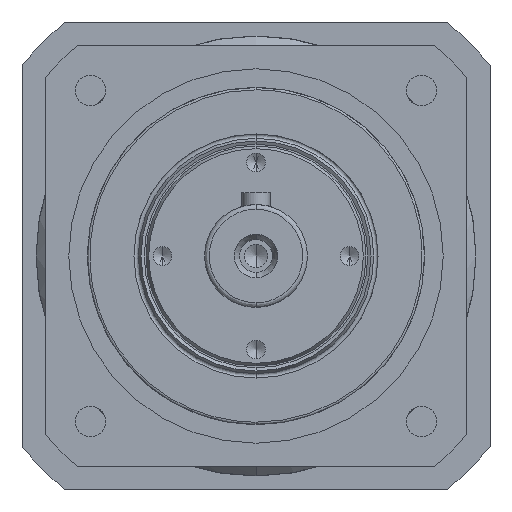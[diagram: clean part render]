
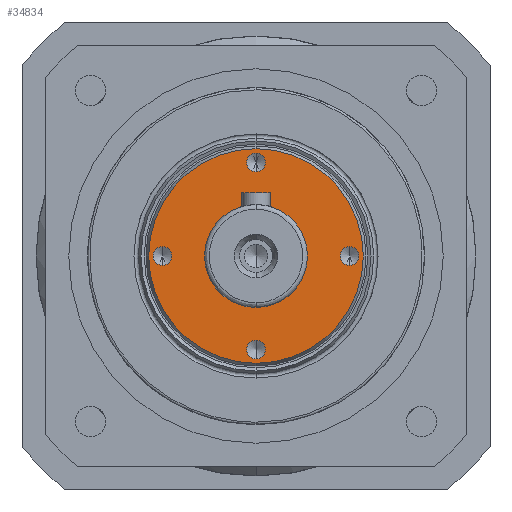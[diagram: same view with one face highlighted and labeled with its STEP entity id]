
A CAD part, left-side view. The second image highlights one B-rep face of the part: STEP entity #34834.
In plain terms, the highlighted planar face has unit normal (-1, 0, 0).
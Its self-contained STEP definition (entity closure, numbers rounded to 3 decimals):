
#48 = DIRECTION ( 'NONE',  ( 0., 0., 1. ) ) ;
#70 = AXIS2_PLACEMENT_3D ( 'NONE', #18521, #7627, #21269 ) ;
#148 = CARTESIAN_POINT ( 'NONE',  ( 39.5, -20., 2. ) ) ;
#640 = DIRECTION ( 'NONE',  ( -1., 0., 0. ) ) ;
#792 = DIRECTION ( 'NONE',  ( -1., 0., 0. ) ) ;
#819 = AXIS2_PLACEMENT_3D ( 'NONE', #3991, #22915, #6692 ) ;
#1209 = DIRECTION ( 'NONE',  ( -1., 0., 0. ) ) ;
#1785 = DIRECTION ( 'NONE',  ( 0., 0., 1. ) ) ;
#2115 = CARTESIAN_POINT ( 'NONE',  ( 39.5, 0., 22.923 ) ) ;
#2175 = EDGE_CURVE ( 'NONE', #29331, #9795, #23464, .T. ) ;
#2346 = EDGE_LOOP ( 'NONE', ( #7437, #2680 ) ) ;
#2680 = ORIENTED_EDGE ( 'NONE', *, *, #2175, .F. ) ;
#2889 = VERTEX_POINT ( 'NONE', #28258 ) ;
#3090 = AXIS2_PLACEMENT_3D ( 'NONE', #3813, #22751, #6522 ) ;
#3546 = VERTEX_POINT ( 'NONE', #11335 ) ;
#3647 = EDGE_LOOP ( 'NONE', ( #8875, #10051 ) ) ;
#3813 = CARTESIAN_POINT ( 'NONE',  ( 39.5, 0., 20. ) ) ;
#3934 = CIRCLE ( 'NONE', #19303, 22.923 ) ;
#3991 = CARTESIAN_POINT ( 'NONE',  ( 39.5, 0., -20. ) ) ;
#4042 = DIRECTION ( 'NONE',  ( -1., 0., 0. ) ) ;
#4164 = CIRCLE ( 'NONE', #819, 2. ) ;
#4484 = AXIS2_PLACEMENT_3D ( 'NONE', #32548, #16287, #48 ) ;
#4542 = AXIS2_PLACEMENT_3D ( 'NONE', #9350, #4042, #29285 ) ;
#4765 = CARTESIAN_POINT ( 'NONE',  ( 39.5, 0., 22. ) ) ;
#4771 = FACE_BOUND ( 'NONE', #22390, .T. ) ;
#4926 = ORIENTED_EDGE ( 'NONE', *, *, #26098, .F. ) ;
#5150 = ORIENTED_EDGE ( 'NONE', *, *, #16307, .F. ) ;
#5408 = CIRCLE ( 'NONE', #33703, 2. ) ;
#5780 = ORIENTED_EDGE ( 'NONE', *, *, #13956, .F. ) ;
#5847 = CARTESIAN_POINT ( 'NONE',  ( 39.5, 20., -2. ) ) ;
#6522 = DIRECTION ( 'NONE',  ( 0., 0., 1. ) ) ;
#6692 = DIRECTION ( 'NONE',  ( 0., 0., 1. ) ) ;
#7132 = CIRCLE ( 'NONE', #10244, 2. ) ;
#7437 = ORIENTED_EDGE ( 'NONE', *, *, #29196, .F. ) ;
#7627 = DIRECTION ( 'NONE',  ( 1., 0., 0. ) ) ;
#8409 = VERTEX_POINT ( 'NONE', #4765 ) ;
#8875 = ORIENTED_EDGE ( 'NONE', *, *, #33177, .F. ) ;
#9033 = DIRECTION ( 'NONE',  ( -1., 0., 0. ) ) ;
#9115 = CARTESIAN_POINT ( 'NONE',  ( 39.5, 0., 0. ) ) ;
#9350 = CARTESIAN_POINT ( 'NONE',  ( 39.5, -20., 0. ) ) ;
#9431 = EDGE_CURVE ( 'NONE', #3546, #8409, #21688, .T. ) ;
#9795 = VERTEX_POINT ( 'NONE', #148 ) ;
#10051 = ORIENTED_EDGE ( 'NONE', *, *, #26487, .F. ) ;
#10182 = VERTEX_POINT ( 'NONE', #2115 ) ;
#10244 = AXIS2_PLACEMENT_3D ( 'NONE', #34273, #18010, #1785 ) ;
#10485 = CARTESIAN_POINT ( 'NONE',  ( 39.5, 0., 0. ) ) ;
#10751 = CARTESIAN_POINT ( 'NONE',  ( 39.5, 0., 0. ) ) ;
#11335 = CARTESIAN_POINT ( 'NONE',  ( 39.5, 0., 18. ) ) ;
#11834 = DIRECTION ( 'NONE',  ( 0., 0., -1. ) ) ;
#11954 = ORIENTED_EDGE ( 'NONE', *, *, #13809, .F. ) ;
#11985 = CARTESIAN_POINT ( 'NONE',  ( 39.5, 0., -11. ) ) ;
#12168 = ORIENTED_EDGE ( 'NONE', *, *, #28611, .F. ) ;
#12788 = FACE_OUTER_BOUND ( 'NONE', #3647, .T. ) ;
#13236 = DIRECTION ( 'NONE',  ( 0., 0., -1. ) ) ;
#13487 = DIRECTION ( 'NONE',  ( 0., 0., 1. ) ) ;
#13809 = EDGE_CURVE ( 'NONE', #8409, #3546, #18210, .T. ) ;
#13956 = EDGE_CURVE ( 'NONE', #25348, #20768, #21683, .T. ) ;
#14713 = CARTESIAN_POINT ( 'NONE',  ( 39.5, 0., -22.923 ) ) ;
#15038 = EDGE_LOOP ( 'NONE', ( #28812, #12168 ) ) ;
#15415 = CARTESIAN_POINT ( 'NONE',  ( 39.5, -20., -2. ) ) ;
#15762 = AXIS2_PLACEMENT_3D ( 'NONE', #9115, #28094, #11834 ) ;
#15815 = PLANE ( 'NONE',  #70 ) ;
#16287 = DIRECTION ( 'NONE',  ( -1., 0., 0. ) ) ;
#16307 = EDGE_CURVE ( 'NONE', #33821, #25370, #25774, .T. ) ;
#16382 = EDGE_LOOP ( 'NONE', ( #31242, #5150 ) ) ;
#16453 = AXIS2_PLACEMENT_3D ( 'NONE', #10751, #29749, #13487 ) ;
#16855 = CARTESIAN_POINT ( 'NONE',  ( 39.5, 0., 0. ) ) ;
#17018 = CARTESIAN_POINT ( 'NONE',  ( 39.5, 20., 0. ) ) ;
#17192 = AXIS2_PLACEMENT_3D ( 'NONE', #16855, #640, #19575 ) ;
#17445 = CARTESIAN_POINT ( 'NONE',  ( 39.5, -20., 0. ) ) ;
#18010 = DIRECTION ( 'NONE',  ( -1., 0., 0. ) ) ;
#18210 = CIRCLE ( 'NONE', #4484, 2. ) ;
#18521 = CARTESIAN_POINT ( 'NONE',  ( 39.5, 0., -11. ) ) ;
#19157 = FACE_BOUND ( 'NONE', #2346, .T. ) ;
#19303 = AXIS2_PLACEMENT_3D ( 'NONE', #10485, #29505, #13236 ) ;
#19575 = DIRECTION ( 'NONE',  ( 0., 0., 1. ) ) ;
#19737 = DIRECTION ( 'NONE',  ( 0., 0., 1. ) ) ;
#20168 = DIRECTION ( 'NONE',  ( 0., 0., 1. ) ) ;
#20768 = VERTEX_POINT ( 'NONE', #11985 ) ;
#21111 = ORIENTED_EDGE ( 'NONE', *, *, #9431, .F. ) ;
#21269 = DIRECTION ( 'NONE',  ( 0., 0., -1. ) ) ;
#21683 = CIRCLE ( 'NONE', #17192, 11. ) ;
#21688 = CIRCLE ( 'NONE', #3090, 2. ) ;
#22390 = EDGE_LOOP ( 'NONE', ( #5780, #4926 ) ) ;
#22751 = DIRECTION ( 'NONE',  ( -1., 0., 0. ) ) ;
#22915 = DIRECTION ( 'NONE',  ( -1., 0., 0. ) ) ;
#23293 = EDGE_CURVE ( 'NONE', #26918, #2889, #7132, .T. ) ;
#23464 = CIRCLE ( 'NONE', #4542, 2. ) ;
#24032 = AXIS2_PLACEMENT_3D ( 'NONE', #25271, #9033, #28001 ) ;
#24724 = EDGE_CURVE ( 'NONE', #25370, #33821, #5408, .T. ) ;
#25271 = CARTESIAN_POINT ( 'NONE',  ( 39.5, 20., 0. ) ) ;
#25348 = VERTEX_POINT ( 'NONE', #27893 ) ;
#25370 = VERTEX_POINT ( 'NONE', #28132 ) ;
#25774 = CIRCLE ( 'NONE', #24032, 2. ) ;
#26098 = EDGE_CURVE ( 'NONE', #20768, #25348, #32961, .T. ) ;
#26363 = FACE_BOUND ( 'NONE', #16382, .T. ) ;
#26487 = EDGE_CURVE ( 'NONE', #10182, #29232, #31654, .T. ) ;
#26918 = VERTEX_POINT ( 'NONE', #30543 ) ;
#27893 = CARTESIAN_POINT ( 'NONE',  ( 39.5, 0., 11. ) ) ;
#28001 = DIRECTION ( 'NONE',  ( 0., 0., 1. ) ) ;
#28094 = DIRECTION ( 'NONE',  ( 1., 0., 0. ) ) ;
#28132 = CARTESIAN_POINT ( 'NONE',  ( 39.5, 20., 2. ) ) ;
#28258 = CARTESIAN_POINT ( 'NONE',  ( 39.5, 0., -22. ) ) ;
#28611 = EDGE_CURVE ( 'NONE', #2889, #26918, #4164, .T. ) ;
#28812 = ORIENTED_EDGE ( 'NONE', *, *, #23293, .F. ) ;
#29196 = EDGE_CURVE ( 'NONE', #9795, #29331, #33827, .T. ) ;
#29232 = VERTEX_POINT ( 'NONE', #14713 ) ;
#29285 = DIRECTION ( 'NONE',  ( 0., 0., 1. ) ) ;
#29331 = VERTEX_POINT ( 'NONE', #15415 ) ;
#29505 = DIRECTION ( 'NONE',  ( 1., 0., 0. ) ) ;
#29640 = EDGE_LOOP ( 'NONE', ( #11954, #21111 ) ) ;
#29749 = DIRECTION ( 'NONE',  ( -1., 0., 0. ) ) ;
#30543 = CARTESIAN_POINT ( 'NONE',  ( 39.5, 0., -18. ) ) ;
#31028 = AXIS2_PLACEMENT_3D ( 'NONE', #17445, #1209, #20168 ) ;
#31242 = ORIENTED_EDGE ( 'NONE', *, *, #24724, .F. ) ;
#31654 = CIRCLE ( 'NONE', #15762, 22.923 ) ;
#32548 = CARTESIAN_POINT ( 'NONE',  ( 39.5, 0., 20. ) ) ;
#32768 = FACE_BOUND ( 'NONE', #29640, .T. ) ;
#32961 = CIRCLE ( 'NONE', #16453, 11. ) ;
#33177 = EDGE_CURVE ( 'NONE', #29232, #10182, #3934, .T. ) ;
#33609 = FACE_BOUND ( 'NONE', #15038, .T. ) ;
#33703 = AXIS2_PLACEMENT_3D ( 'NONE', #17018, #792, #19737 ) ;
#33821 = VERTEX_POINT ( 'NONE', #5847 ) ;
#33827 = CIRCLE ( 'NONE', #31028, 2. ) ;
#34273 = CARTESIAN_POINT ( 'NONE',  ( 39.5, 0., -20. ) ) ;
#34834 = ADVANCED_FACE ( 'NONE', ( #12788, #4771, #26363, #33609, #19157, #32768 ), #15815, .F. ) ;
